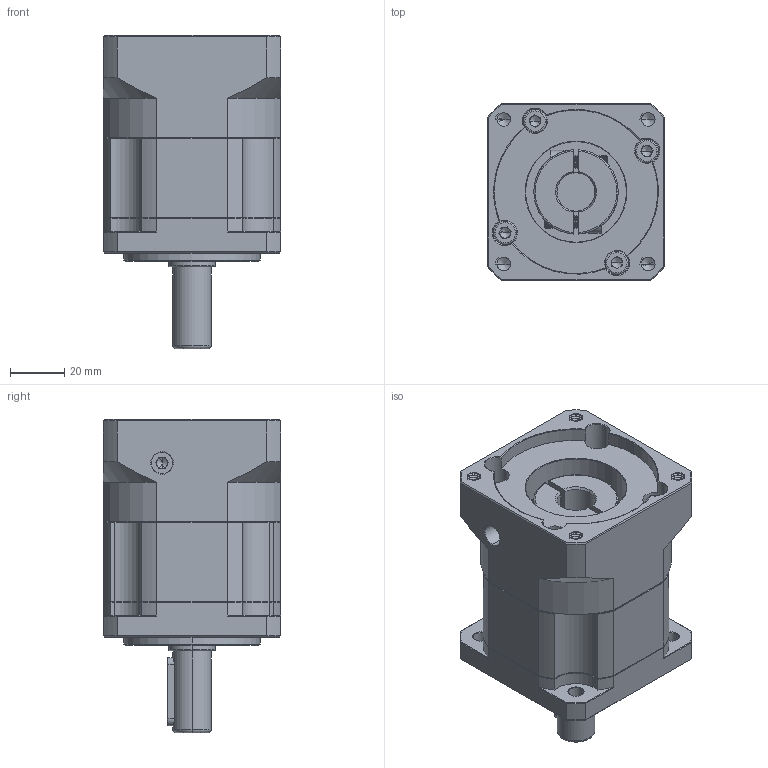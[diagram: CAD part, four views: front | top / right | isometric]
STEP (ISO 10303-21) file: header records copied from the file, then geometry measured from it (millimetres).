
FILE_DESCRIPTION (( 'STEP AP214' ), '1' );
FILE_NAME ('ZB60-D14-L1-14-60-75-M6.STEP', '2022-04-17T07:39:25', ( '' ), ( 'Microsoft' ), 'SwSTEP 2.0', 'SolidWorks 2016', '' );
FILE_SCHEMA (( 'AUTOMOTIVE_DESIGN' ));
Length unit declared in the file: millimetre
Products named in the file (1): ZB60-D14-L1-14-60-75-M6
Bounding box: 65 x 65 x 115 mm (x, y, z)
Volume: 264219.3 mm3; surface area: 54932.4 mm2
Topology: 6 solids, 6 shells, 1890 faces, 5024 edges, 3213 vertices
Faces by surface type: plane 879, cylinder 392, bspline 299, cone 284, torus 36
Entity records: 101635 total; most frequent: CARTESIAN_POINT 36242, ORIENTED_EDGE 9988, DIRECTION 8205, EDGE_CURVE 4994, VERTEX_POINT 3213, LINE 3045, VECTOR 3045, AXIS2_PLACEMENT_3D 2580
